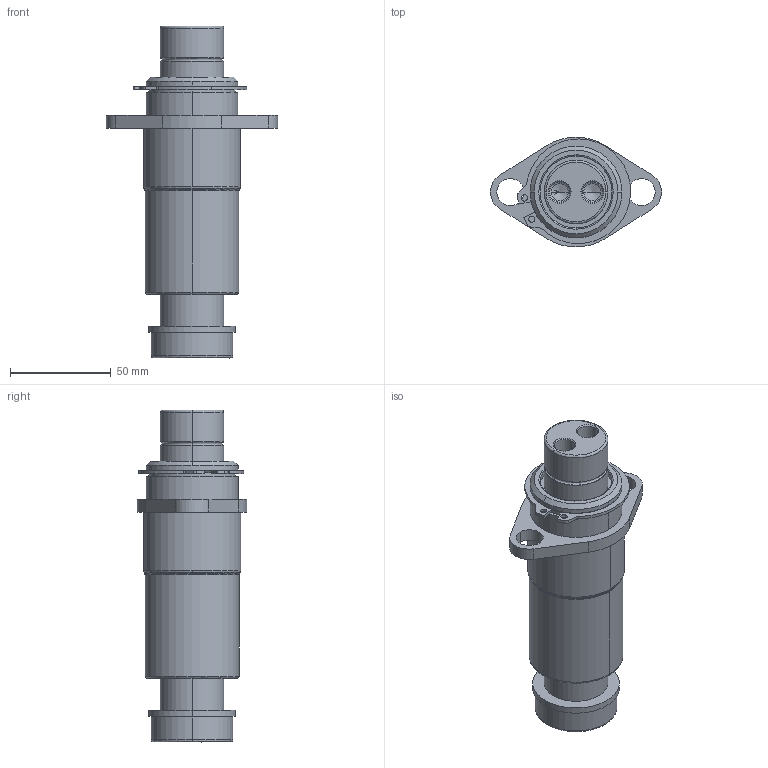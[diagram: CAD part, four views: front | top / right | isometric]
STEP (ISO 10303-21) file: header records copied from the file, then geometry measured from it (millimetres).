
FILE_DESCRIPTION (( 'STEP AP214' ), '1' );
FILE_NAME ('GK122-N4-1-TB-M-XXX.STEP', '2020-09-21T18:45:45', ( '' ), ( '' ), 'SwSTEP 2.0', 'SolidWorks 2017', '' );
FILE_SCHEMA (( 'AUTOMOTIVE_DESIGN' ));
Length unit declared in the file: inch
Products named in the file (7): GK1.25-N4-1-TB-Base; GK122-M-XXX-GuidePin; RetainingRing; GK122-N4-1-TB-M-XXX; GK122-DampeningWasher
Assembly tree (6 placements, depth 3):
  GK122-N4-1-TB-M-XXX
    GK1.25-N4-1-TB-Base
      GK1.25-N4-1-TB-Base
      RetainingRing
    GK122-M-XXX-GuidePin
      GK122-M-XXX-GuidePin
      GK122-DampeningWasher
Bounding box: 85.09 x 54.52 x 165.1 mm (x, y, z)
Volume: 240342.1 mm3; surface area: 57318.7 mm2
Topology: 4 solids, 4 shells, 125 faces, 289 edges, 176 vertices
Faces by surface type: cylinder 59, plane 24, cone 22, bspline 20
Entity records: 4454 total; most frequent: CARTESIAN_POINT 1229, DIRECTION 671, ORIENTED_EDGE 570, EDGE_CURVE 285, AXIS2_PLACEMENT_3D 280, VERTEX_POINT 176, CIRCLE 164, EDGE_LOOP 145
